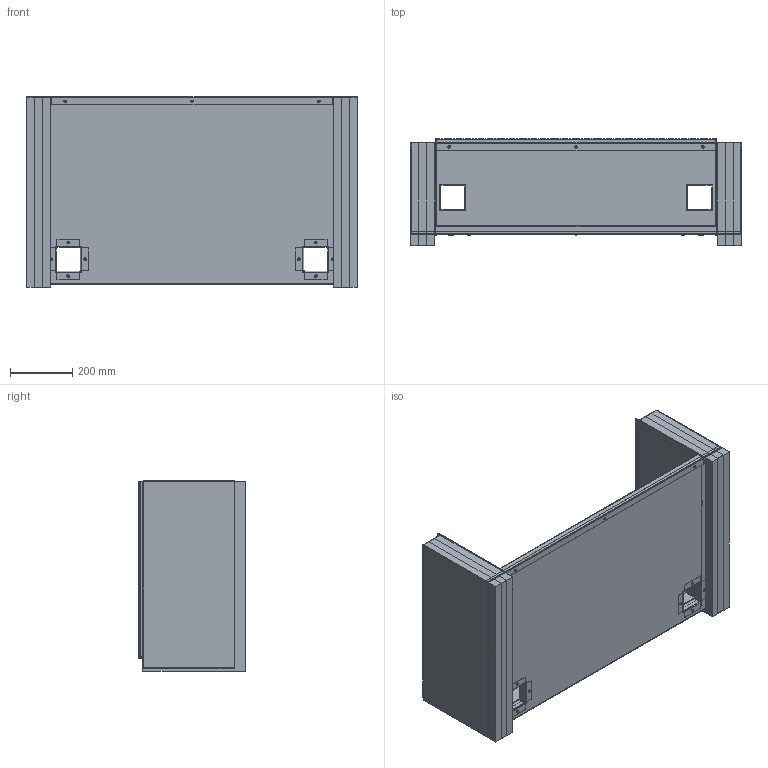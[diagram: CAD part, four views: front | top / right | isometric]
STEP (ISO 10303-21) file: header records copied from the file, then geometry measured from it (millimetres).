
FILE_DESCRIPTION(('CATIA V5 STEP Exchange','CAx-IF Rec.Pracs.--- Composite Materials ---3.4---2017-06-13'),'2;1');
FILE_NAME('C:\Users\MMAK\Documents\SmarTeam\WEBSITE CAD\LIJ\LIJ36.stp','2026-07-15T18:53:08+00:00',('none'),('none'),'CATIA Unofficial Packaging Version SP2','CATIA V5 STEP AP203 v2','none');
FILE_SCHEMA(('CONFIG_CONTROL_DESIGN'));
Length unit declared in the file: inch
Products named in the file (1): 81131 2
Assembly tree (82 placements, depth 2):
  81131 2
    #63  x66
    #760
    #3996
    #8575
    #17869  x2
    #20418  x2
    #22880  x4
    #23101
    #26120
    #30506
    #31766  x2
Bounding box: 1060.41 x 341.88 x 610.13 mm (x, y, z)
Volume: 43298336 mm3; surface area: 7870194.4 mm2
Topology: 82 solids, 82 shells, 2400 faces, 5408 edges, 3304 vertices
Faces by surface type: plane 1156, cylinder 964, torus 132, revolution 132, bspline 16
Entity records: 34110 total; most frequent: CARTESIAN_POINT 9218, ORIENTED_EDGE 5438, DIRECTION 4010, EDGE_CURVE 2719, VECTOR 1721, LINE 1721, VERTEX_POINT 1664, AXIS2_PLACEMENT_3D 1522
